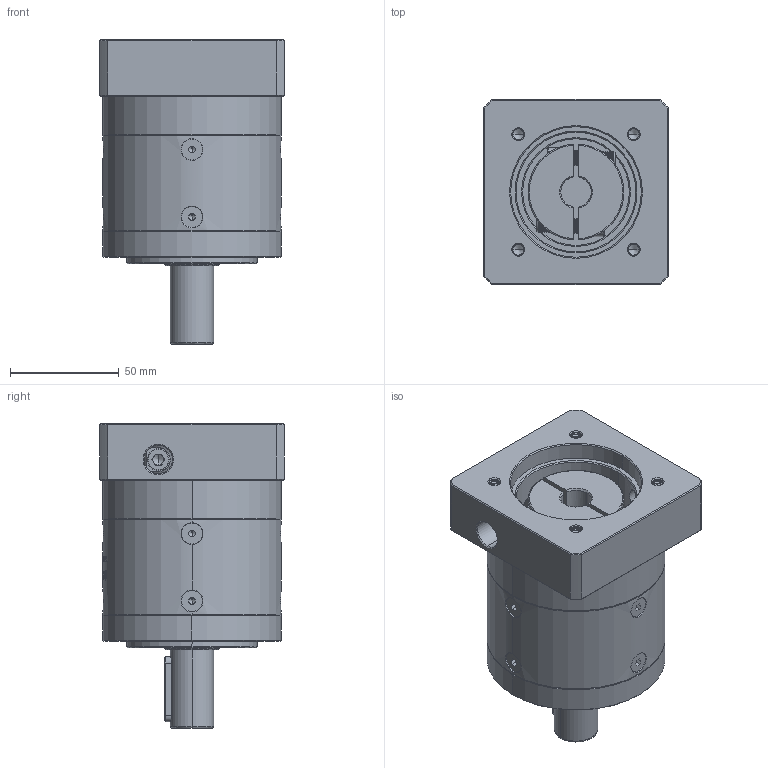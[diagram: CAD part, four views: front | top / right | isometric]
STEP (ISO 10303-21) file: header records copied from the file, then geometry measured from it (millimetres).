
FILE_DESCRIPTION (( 'STEP AP214' ), '1' );
FILE_NAME ('ZE80-D20-L1-14-60-75-M6.step', '2022-05-08T05:49:59', ( '' ), ( 'Microsoft' ), 'SwSTEP 2.0', 'SolidWorks 2016', '' );
FILE_SCHEMA (( 'AUTOMOTIVE_DESIGN' ));
Length unit declared in the file: millimetre
Products named in the file (1): ZE80-D20-L1-14-60-75-M6
Bounding box: 85 x 85 x 140 mm (x, y, z)
Volume: 529600.3 mm3; surface area: 85195 mm2
Topology: 13 solids, 13 shells, 2077 faces, 5403 edges, 3415 vertices
Faces by surface type: plane 891, cylinder 504, cone 333, bspline 332, torus 17
Entity records: 118835 total; most frequent: CARTESIAN_POINT 49455, ORIENTED_EDGE 10730, DIRECTION 8269, EDGE_CURVE 5365, VERTEX_POINT 3415, VECTOR 2865, LINE 2865, AXIS2_PLACEMENT_3D 2702
